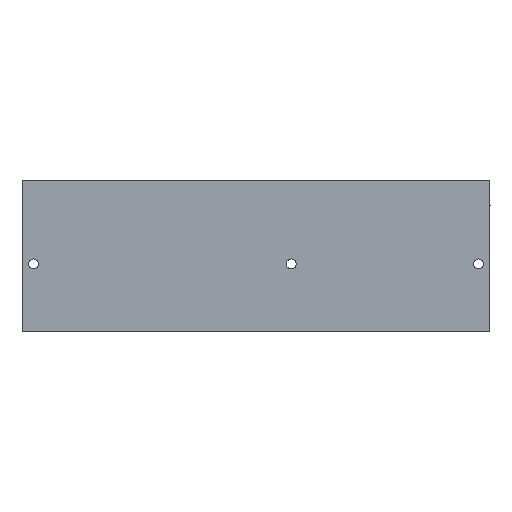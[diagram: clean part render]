
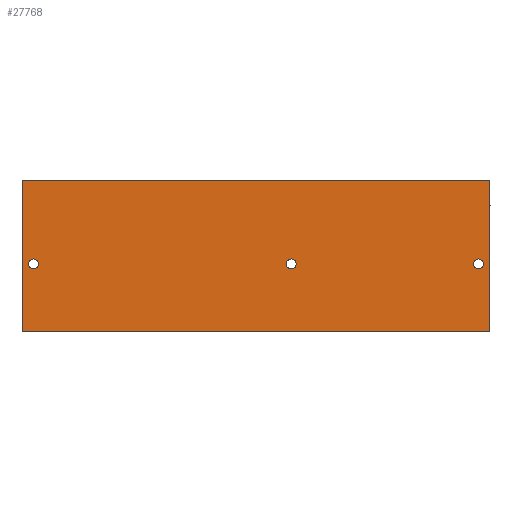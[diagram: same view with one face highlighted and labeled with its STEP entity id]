
A CAD part, front view. The second image highlights one B-rep face of the part: STEP entity #27768.
In plain terms, the highlighted planar face has unit normal (0, -1, 0).
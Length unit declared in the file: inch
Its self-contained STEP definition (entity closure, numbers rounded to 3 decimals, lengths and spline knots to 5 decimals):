
#824 = ORIENTED_EDGE ( 'NONE', *, *, #2417, .T. ) ;
#915 = EDGE_LOOP ( 'NONE', ( #9428, #28285 ) ) ;
#1370 = DIRECTION ( 'NONE',  ( 0., 0., 1. ) ) ;
#1437 = DIRECTION ( 'NONE',  ( 0., 1., 0. ) ) ;
#1445 = CARTESIAN_POINT ( 'NONE',  ( 15.85, 0., -2.9 ) ) ;
#1483 = PLANE ( 'NONE',  #24933 ) ;
#1553 = FACE_BOUND ( 'NONE', #915, .T. ) ;
#2159 = CARTESIAN_POINT ( 'NONE',  ( 0.4, 0., -3.072 ) ) ;
#2256 = CIRCLE ( 'NONE', #4607, 0.172 ) ;
#2344 = ORIENTED_EDGE ( 'NONE', *, *, #22381, .T. ) ;
#2417 = EDGE_CURVE ( 'NONE', #28763, #11357, #4296, .T. ) ;
#3733 = AXIS2_PLACEMENT_3D ( 'NONE', #1445, #1437, #1370 ) ;
#3893 = DIRECTION ( 'NONE',  ( 0., 0., 1. ) ) ;
#3917 = DIRECTION ( 'NONE',  ( 0., 1., 0. ) ) ;
#3956 = CARTESIAN_POINT ( 'NONE',  ( 0.4, 0., -2.9 ) ) ;
#4042 = AXIS2_PLACEMENT_3D ( 'NONE', #3956, #3917, #3893 ) ;
#4296 = CIRCLE ( 'NONE', #10616, 0.172 ) ;
#4529 = AXIS2_PLACEMENT_3D ( 'NONE', #8001, #7989, #7962 ) ;
#4607 = AXIS2_PLACEMENT_3D ( 'NONE', #8133, #8104, #8099 ) ;
#5178 = EDGE_CURVE ( 'NONE', #15858, #8232, #2256, .T. ) ;
#5186 = EDGE_CURVE ( 'NONE', #28411, #16294, #26841, .T. ) ;
#5464 = EDGE_CURVE ( 'NONE', #11357, #28763, #14373, .T. ) ;
#5644 = EDGE_CURVE ( 'NONE', #16294, #28411, #20839, .T. ) ;
#5958 = CARTESIAN_POINT ( 'NONE',  ( 16.25, 0., 0. ) ) ;
#6020 = EDGE_CURVE ( 'NONE', #28687, #9489, #19747, .T. ) ;
#6282 = DIRECTION ( 'NONE',  ( 0., 0., 1. ) ) ;
#6302 = EDGE_CURVE ( 'NONE', #22753, #13730, #7043, .T. ) ;
#6422 = EDGE_CURVE ( 'NONE', #13730, #9489, #27147, .T. ) ;
#7043 = LINE ( 'NONE', #13427, #7777 ) ;
#7425 = VECTOR ( 'NONE', #21937, 39.37008 ) ;
#7777 = VECTOR ( 'NONE', #13348, 39.37008 ) ;
#7868 = FACE_BOUND ( 'NONE', #29463, .T. ) ;
#7962 = DIRECTION ( 'NONE',  ( 0., 0., 1. ) ) ;
#7989 = DIRECTION ( 'NONE',  ( 0., 1., 0. ) ) ;
#8001 = CARTESIAN_POINT ( 'NONE',  ( 15.85, 0., -2.9 ) ) ;
#8099 = DIRECTION ( 'NONE',  ( 0., 0., 1. ) ) ;
#8104 = DIRECTION ( 'NONE',  ( 0., 1., 0. ) ) ;
#8133 = CARTESIAN_POINT ( 'NONE',  ( 9.35, 0., -2.9 ) ) ;
#8146 = EDGE_CURVE ( 'NONE', #8232, #15858, #19978, .T. ) ;
#8232 = VERTEX_POINT ( 'NONE', #8722 ) ;
#8323 = CARTESIAN_POINT ( 'NONE',  ( 0., 0., -5.25 ) ) ;
#8722 = CARTESIAN_POINT ( 'NONE',  ( 9.35, 0., -3.072 ) ) ;
#9428 = ORIENTED_EDGE ( 'NONE', *, *, #5644, .T. ) ;
#9489 = VERTEX_POINT ( 'NONE', #8323 ) ;
#10082 = DIRECTION ( 'NONE',  ( 0., 0., 1. ) ) ;
#10187 = DIRECTION ( 'NONE',  ( 0., 1., 0. ) ) ;
#10210 = CARTESIAN_POINT ( 'NONE',  ( 16.25, 0., -5.25 ) ) ;
#10257 = CARTESIAN_POINT ( 'NONE',  ( 9.35, 0., -2.9 ) ) ;
#10326 = CARTESIAN_POINT ( 'NONE',  ( 16.25, 0., 0. ) ) ;
#10616 = AXIS2_PLACEMENT_3D ( 'NONE', #21967, #21932, #21912 ) ;
#10995 = CARTESIAN_POINT ( 'NONE',  ( 16.25, 0., -5.25 ) ) ;
#11317 = EDGE_LOOP ( 'NONE', ( #23740, #19854, #27953, #2344 ) ) ;
#11319 = DIRECTION ( 'NONE',  ( -1., 0., 0. ) ) ;
#11357 = VERTEX_POINT ( 'NONE', #21112 ) ;
#11950 = ORIENTED_EDGE ( 'NONE', *, *, #5464, .T. ) ;
#13154 = LINE ( 'NONE', #10326, #18523 ) ;
#13348 = DIRECTION ( 'NONE',  ( 0., 0., -1. ) ) ;
#13427 = CARTESIAN_POINT ( 'NONE',  ( 16.25, 0., 0. ) ) ;
#13730 = VERTEX_POINT ( 'NONE', #10995 ) ;
#13898 = CARTESIAN_POINT ( 'NONE',  ( 16.25, 0., 0. ) ) ;
#14073 = FACE_BOUND ( 'NONE', #24498, .T. ) ;
#14373 = CIRCLE ( 'NONE', #4042, 0.172 ) ;
#15256 = CARTESIAN_POINT ( 'NONE',  ( 15.85, 0., -2.728 ) ) ;
#15858 = VERTEX_POINT ( 'NONE', #28972 ) ;
#16294 = VERTEX_POINT ( 'NONE', #15256 ) ;
#16506 = VECTOR ( 'NONE', #11319, 39.37008 ) ;
#18523 = VECTOR ( 'NONE', #28490, 39.37008 ) ;
#19747 = LINE ( 'NONE', #22041, #7425 ) ;
#19854 = ORIENTED_EDGE ( 'NONE', *, *, #6422, .F. ) ;
#19978 = CIRCLE ( 'NONE', #22650, 0.172 ) ;
#20143 = DIRECTION ( 'NONE',  ( 0., 1., 0. ) ) ;
#20505 = CARTESIAN_POINT ( 'NONE',  ( 0., 0., 0. ) ) ;
#20533 = ORIENTED_EDGE ( 'NONE', *, *, #5178, .T. ) ;
#20839 = CIRCLE ( 'NONE', #3733, 0.172 ) ;
#21112 = CARTESIAN_POINT ( 'NONE',  ( 0.4, 0., -2.728 ) ) ;
#21912 = DIRECTION ( 'NONE',  ( 0., 0., 1. ) ) ;
#21932 = DIRECTION ( 'NONE',  ( 0., 1., 0. ) ) ;
#21937 = DIRECTION ( 'NONE',  ( 0., 0., -1. ) ) ;
#21967 = CARTESIAN_POINT ( 'NONE',  ( 0.4, 0., -2.9 ) ) ;
#22041 = CARTESIAN_POINT ( 'NONE',  ( 0., 0., 0. ) ) ;
#22381 = EDGE_CURVE ( 'NONE', #22753, #28687, #13154, .T. ) ;
#22650 = AXIS2_PLACEMENT_3D ( 'NONE', #10257, #10187, #10082 ) ;
#22753 = VERTEX_POINT ( 'NONE', #13898 ) ;
#23697 = CARTESIAN_POINT ( 'NONE',  ( 15.85, 0., -3.072 ) ) ;
#23740 = ORIENTED_EDGE ( 'NONE', *, *, #6020, .T. ) ;
#24498 = EDGE_LOOP ( 'NONE', ( #11950, #824 ) ) ;
#24933 = AXIS2_PLACEMENT_3D ( 'NONE', #5958, #20143, #6282 ) ;
#25464 = FACE_OUTER_BOUND ( 'NONE', #11317, .T. ) ;
#26841 = CIRCLE ( 'NONE', #4529, 0.172 ) ;
#27147 = LINE ( 'NONE', #10210, #16506 ) ;
#27768 = ADVANCED_FACE ( 'NONE', ( #7868, #14073, #1553, #25464 ), #1483, .F. ) ;
#27953 = ORIENTED_EDGE ( 'NONE', *, *, #6302, .F. ) ;
#28285 = ORIENTED_EDGE ( 'NONE', *, *, #5186, .T. ) ;
#28411 = VERTEX_POINT ( 'NONE', #23697 ) ;
#28490 = DIRECTION ( 'NONE',  ( -1., 0., 0. ) ) ;
#28631 = ORIENTED_EDGE ( 'NONE', *, *, #8146, .T. ) ;
#28687 = VERTEX_POINT ( 'NONE', #20505 ) ;
#28763 = VERTEX_POINT ( 'NONE', #2159 ) ;
#28972 = CARTESIAN_POINT ( 'NONE',  ( 9.35, 0., -2.728 ) ) ;
#29463 = EDGE_LOOP ( 'NONE', ( #20533, #28631 ) ) ;
